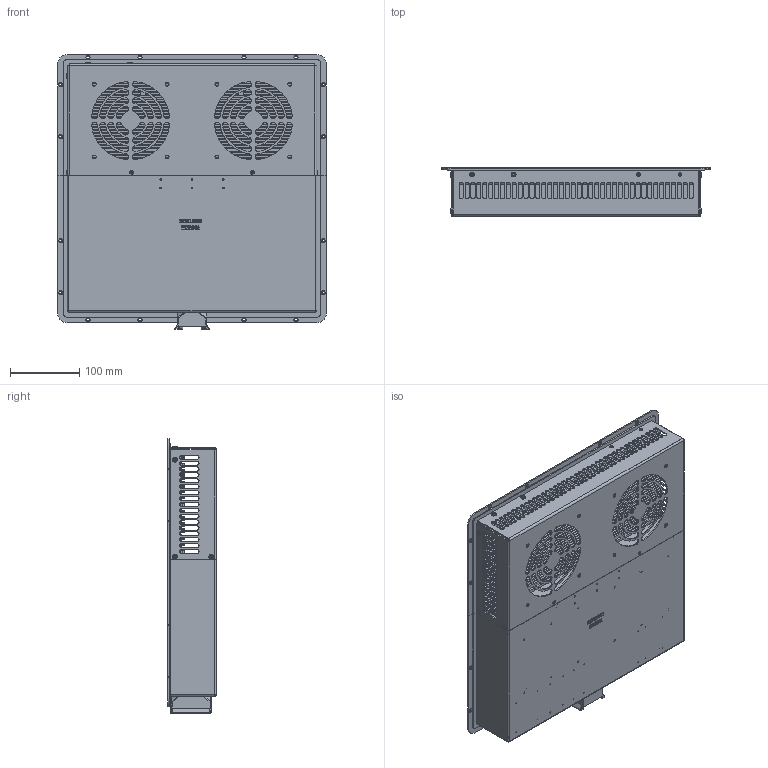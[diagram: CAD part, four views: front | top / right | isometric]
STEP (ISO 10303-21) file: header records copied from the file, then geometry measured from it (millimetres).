
FILE_DESCRIPTION (( 'STEP AP214' ), '1' );
FILE_NAME ('干扰盾-装配图.STEP', '2026-09-29T07:30:27', ( '微软用户' ), ( '微软中国' ), 'SwSTEP 2.0', 'SolidWorks 2016', '' );
FILE_SCHEMA (( 'AUTOMOTIVE_DESIGN' ));
Length unit declared in the file: millimetre
Products named in the file (8): 菜輸8; 毀秶嗎-碟极2; 菜輸7; M3℅6す芛給晚囀鞠褒; 堁怢饜璃3; 毀秶嗎-碟极1; 瑞圮醱啣-忒厥嗎; 干扰盾-装配图
Assembly tree (15 placements, depth 2):
  干扰盾-装配图
    瑞圮醱啣-忒厥嗎
    毀秶嗎-碟极1
    堁怢饜璃3
    M3℅6す芛給晚囀鞠褒  x7
    菜輸7  x2
    毀秶嗎-碟极2
    菜輸8  x2
Bounding box: 387 x 69.8 x 396.5 mm (x, y, z)
Volume: 724289 mm3; surface area: 769609.7 mm2
Topology: 15 solids, 15 shells, 3617 faces, 9584 edges, 6203 vertices
Faces by surface type: cylinder 1567, plane 1485, bspline 291, cone 230, sphere 40, torus 4
Entity records: 121797 total; most frequent: CARTESIAN_POINT 35193, ORIENTED_EDGE 17644, DIRECTION 17262, EDGE_CURVE 8822, AXIS2_PLACEMENT_3D 5975, VERTEX_POINT 5742, LINE 5312, VECTOR 5312
